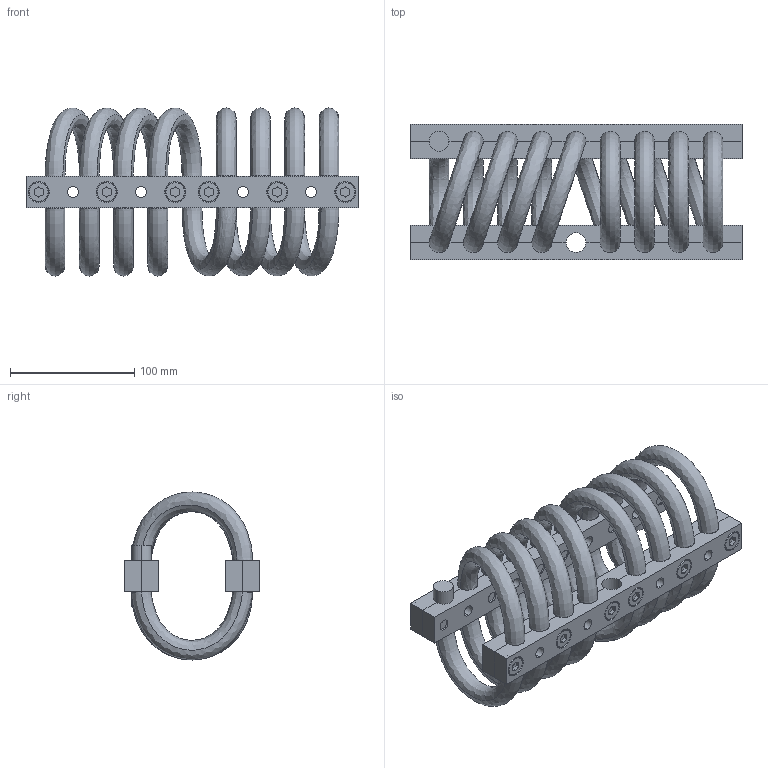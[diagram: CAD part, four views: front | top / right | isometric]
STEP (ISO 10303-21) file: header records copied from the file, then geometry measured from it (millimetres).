
FILE_DESCRIPTION (( 'STEP AP214' ), '1' );
FILE_NAME ('WR20-600-8DM.STEP', '2018-12-07T10:10:55', ( 'user' ), ( 'Microsoft' ), 'SwSTEP 2.0', 'SolidWorks 2016', '' );
FILE_SCHEMA (( 'AUTOMOTIVE_DESIGN' ));
Length unit declared in the file: millimetre
Products named in the file (1): WR20-600-8DM
Bounding box: 266.7 x 109 x 135 mm (x, y, z)
Volume: 837122.7 mm3; surface area: 264802 mm2
Topology: 34 solids, 34 shells, 672 faces, 1546 edges, 978 vertices
Faces by surface type: plane 300, cylinder 266, cone 72, bspline 34
Entity records: 35954 total; most frequent: CARTESIAN_POINT 19158, DIRECTION 3188, ORIENTED_EDGE 3092, EDGE_CURVE 1546, AXIS2_PLACEMENT_3D 1167, VERTEX_POINT 978, LINE 854, VECTOR 854
